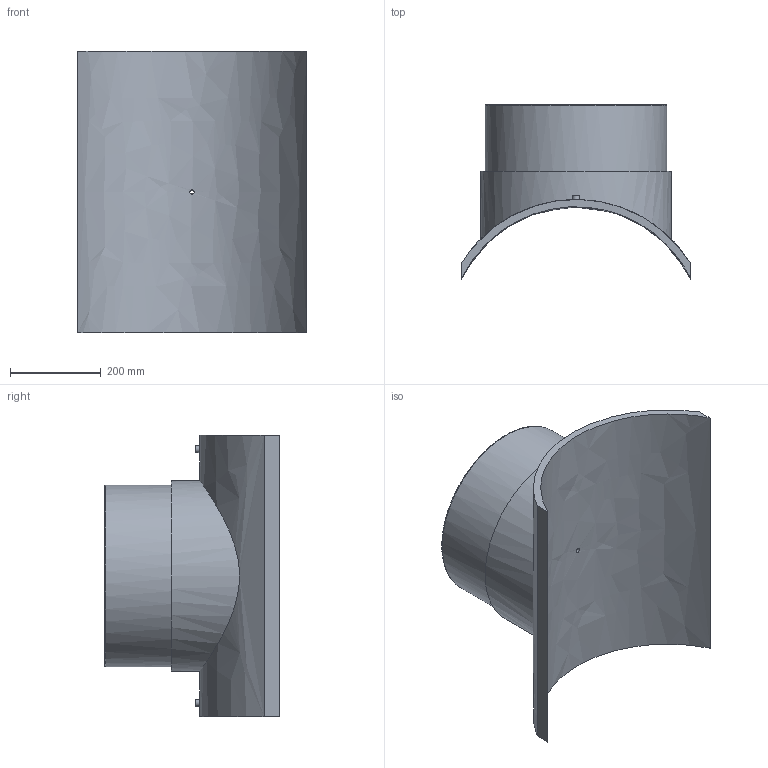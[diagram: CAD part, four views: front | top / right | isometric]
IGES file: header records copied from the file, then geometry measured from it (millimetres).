
Global section: file name: 495803560400T; native system: Autodesk Inventor 2019; preprocessor: unknown; author: KIM; date: 20240404.114928; units: millimetre
Bounding box: 505 x 383.99 x 620 mm (x, y, z)
Volume: 18261939.6 mm3; surface area: 1382285.2 mm2
Topology: 1 solids, 1 shells, 29 faces, 60 edges, 43 vertices
Faces by surface type: bspline 29
